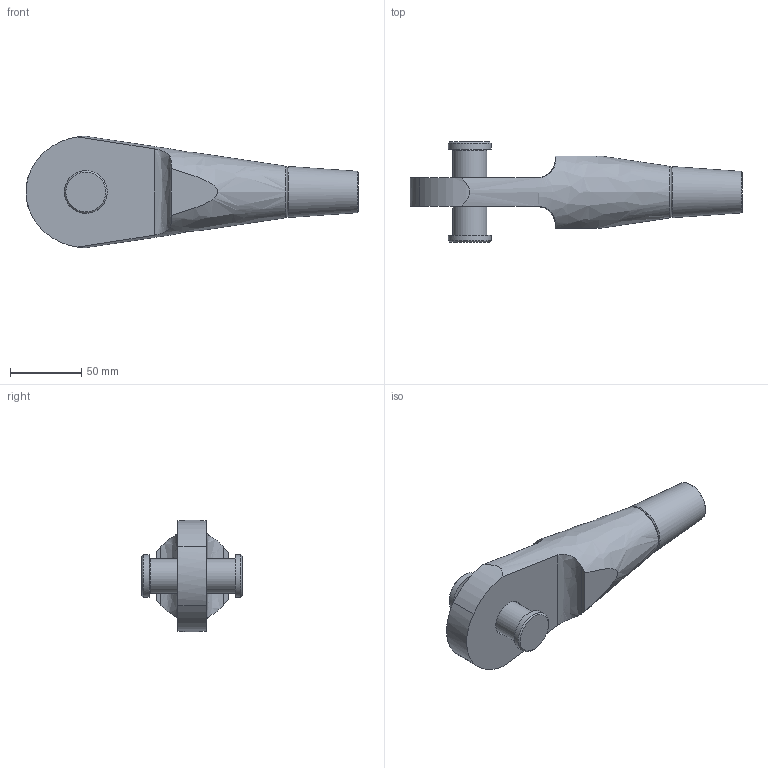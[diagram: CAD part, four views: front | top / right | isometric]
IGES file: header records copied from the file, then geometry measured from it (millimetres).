
Global section: file name: 520-024-OES; native system: Autodesk Inventor 2016; preprocessor: unknown; author: Administrator; date: 20200626.101108; units: centimetre
Bounding box: 232.97 x 70.72 x 78.15 mm (x, y, z)
Volume: 329851.3 mm3; surface area: 48771.3 mm2
Topology: 2 solids, 3 shells, 49 faces, 116 edges, 79 vertices
Faces by surface type: bspline 49
